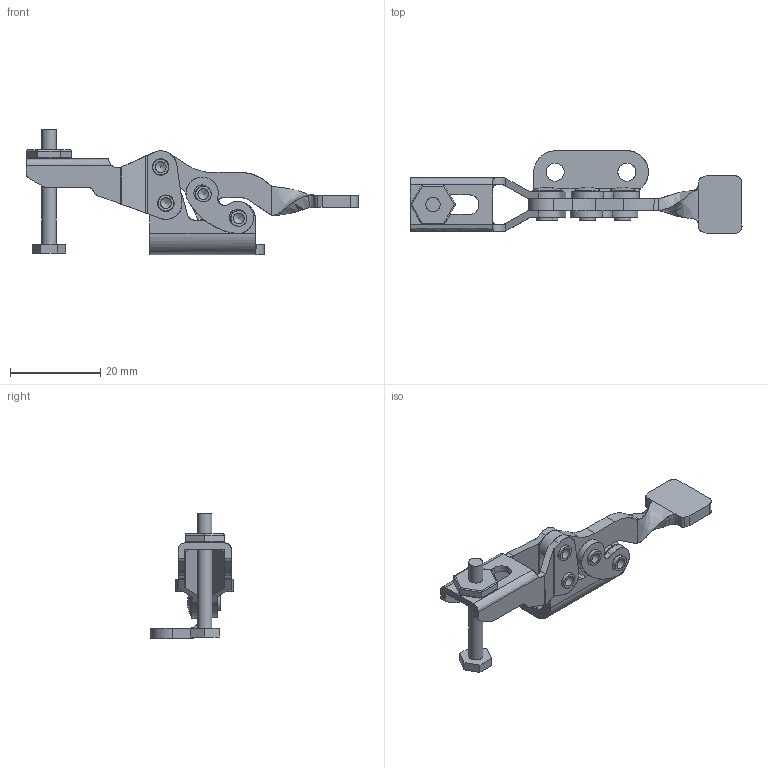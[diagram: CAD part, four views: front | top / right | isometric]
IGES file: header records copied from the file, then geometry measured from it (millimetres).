
Global section: file name: C:\T&M Tech\Carbide Tech\Work\100 series\hr-100\hr-100.igs; native system: Unigraphics Version X V2.0; preprocessor: Unigraphics NX IGES V2.0; date: 20041216.111029; units: inch
Bounding box: 73.48 x 18.29 x 27.71 mm (x, y, z)
Surface area: 5608.9 mm2 (no closed solid volume)
Topology: 0 solids, 0 shells, 212 faces, 2570 edges, 2533 vertices
Faces by surface type: revolution 111, extrusion 91, bspline 8, offset 2
